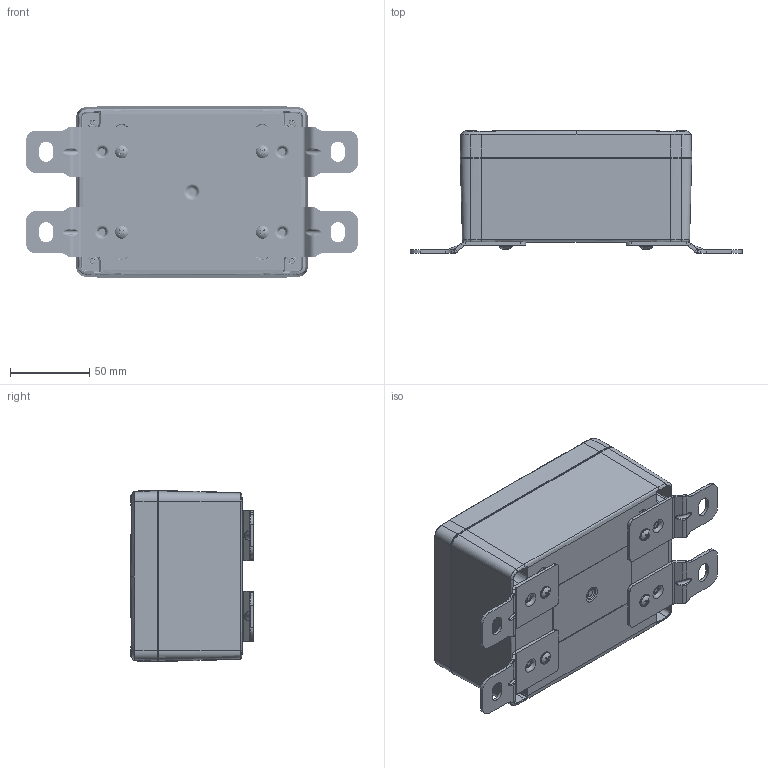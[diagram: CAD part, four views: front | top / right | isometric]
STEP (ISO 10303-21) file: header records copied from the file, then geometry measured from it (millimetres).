
FILE_DESCRIPTION (( 'STEP AP214' ), '1' );
FILE_NAME ('HN-46-24.STEP', '2026-09-24T18:02:22', ( '' ), ( '' ), 'SwSTEP 2.0', 'SolidWorks 2026', '' );
FILE_SCHEMA (( 'AUTOMOTIVE_DESIGN' ));
Length unit declared in the file: inch
Products named in the file (11): HN-46-24; HN-46CG_HN-46CG-02; HN-46C_HN-46C-02; SCREWS-054_DEFAULT; ZH-91F_ZH-91F-01; HN-46G_default; SCREWS-xxx_#8-16 PLASTITE, PAN, PHILLIPS_SCREWS-044; HN-46BN_HN-46BPN-00; LABEL-107; INSERTS-3_INSERTS-3; HN-46B_HN-46BP-00
Assembly tree (22 placements, depth 3):
  HN-46-24
    HN-46B_HN-46BP-00
      HN-46BN_HN-46BPN-00
      INSERTS-3_INSERTS-3  x4
      LABEL-107
    HN-46CG_HN-46CG-02
      HN-46C_HN-46C-02
      HN-46G_default
    SCREWS-054_DEFAULT  x4
    ZH-91F_ZH-91F-01  x4
    SCREWS-xxx_#8-16 PLASTITE, PAN, PHILLIPS_SCREWS-044  x4
Bounding box: 209.55 x 77.26 x 107.95 mm (x, y, z)
Volume: 251770.3 mm3; surface area: 178354.3 mm2
Topology: 19 solids, 21 shells, 3753 faces, 8978 edges, 5279 vertices
Faces by surface type: bspline 846, plane 725, torus 720, cylinder 700, cone 690, sphere 72
Full cylindrical faces by diameter (mm): 2.413 x4, 2.705 x4, 4.318 x4, 4.445 x16, 4.699 x8, 5.105 x4, 5.283 x8, 6.274 x4, 6.858 x4, 8.179 x4
Entity records: 119471 total; most frequent: CARTESIAN_POINT 58044, ORIENTED_EDGE 13486, DIRECTION 11317, EDGE_CURVE 6746, AXIS2_PLACEMENT_3D 4905, VERTEX_POINT 4060, EDGE_LOOP 3201, FACE_OUTER_BOUND 3019
